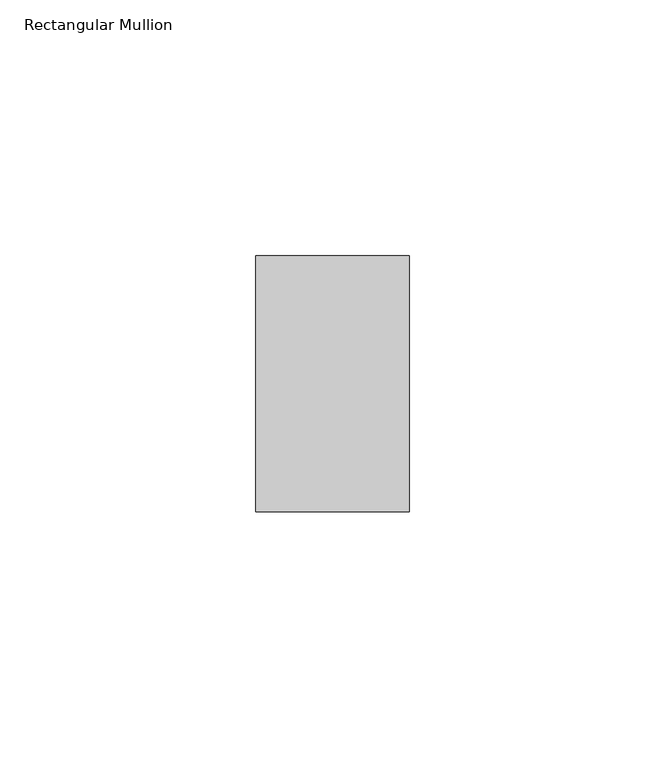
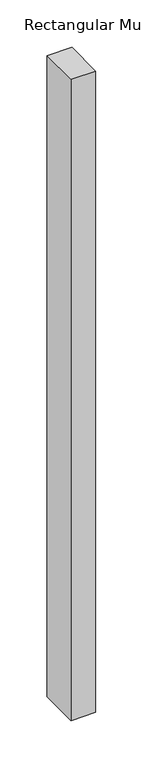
"""IFC4 building model written with IfcOpenShell, lengths in millimetres: member geometry, Rectangular Mullion : ARQ_TV_MULL_50x30mm."""

from ifc_helpers import new_model, si_unit, frame, origin, place, context, project, spatial, polyline, outline, extrude, source, transform, mapped, element, save


def rectangular_mullion_7bf18598(model_context):
    return source(origin(), model_context, "Body", "SweptSolid", [
        extrude(outline(polyline([(0.0, 25.0), (0.0, -25.0), (-30.0, -25.0), (-30.0, 25.0), (0.0, 25.0)])), frame((0.0, 0.0, -824.0436542), z_axis=(0.0, 0.0, 1.0), x_axis=(1.0, 0.0, 0.0)), (0.0, 0.0, 1.0), 824.0436542),
    ])


if __name__ == "__main__":
    model = new_model("IFC4")
    model_context = context("Model", 3, world=origin())
    ifc_project = project(units=[si_unit("LENGTHUNIT", "METRE", prefix="MILLI")], contexts=[model_context])
    site = spatial("IfcSite", under=ifc_project)
    building = spatial("IfcBuilding", under=site)
    placement = place(None, origin())
    rectangular_mullion_shape = rectangular_mullion_7bf18598(model_context)
    element("IfcMember", 1, ObjectType="Rectangular Mullion : ARQ_TV_MULL_50x30mm", at=placement, inside=building, context=model_context, shape_type="MappedRepresentation", body=[
        mapped(rectangular_mullion_shape, transform((0.0, 0.0, 0.0), x_axis=(1.0, 0.0, 0.0), y_axis=(0.0, 1.0, 0.0), z_axis=(0.0, 0.0, 1.0))),
    ])
    save(model, "model.ifc")
